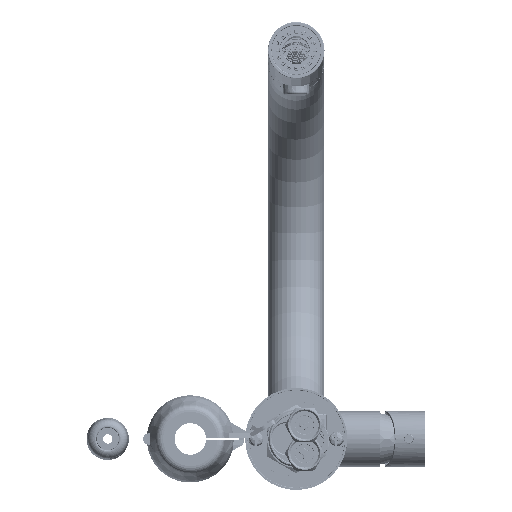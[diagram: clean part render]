
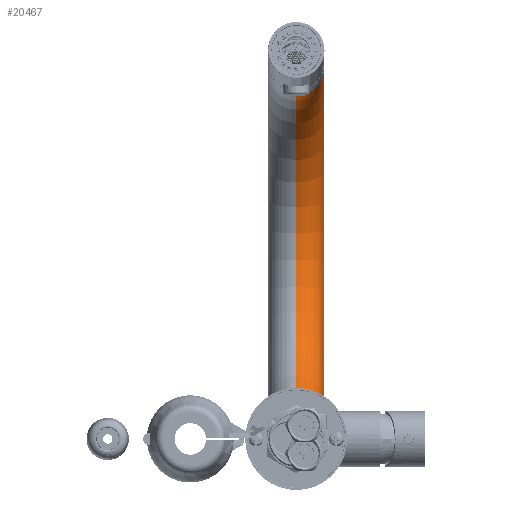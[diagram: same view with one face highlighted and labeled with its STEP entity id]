
A CAD part, front view. The second image highlights one B-rep face of the part: STEP entity #20467.
In plain terms, the highlighted toroidal (fillet/blend) face has major radius 100 mm and minor radius 15 mm.
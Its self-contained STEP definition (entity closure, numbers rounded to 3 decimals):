
#19729=CARTESIAN_POINT('',(0.,0.,118.));
#19730=DIRECTION('',(0.,0.,-1.));
#19731=DIRECTION('',(0.,1.,0.));
#19732=AXIS2_PLACEMENT_3D('',#19729,#19730,#19731);
#19734=CARTESIAN_POINT('',(0.,-100.,118.));
#19735=DIRECTION('',(1.,0.,0.));
#19736=DIRECTION('',(0.,1.,0.));
#19737=AXIS2_PLACEMENT_3D('',#19734,#19735,#19736);
#19739=CARTESIAN_POINT('',(0.,-199.619,126.716));
#19740=DIRECTION('',(0.,-0.087,-0.996));
#19741=DIRECTION('',(0.,0.996,-0.087));
#19742=AXIS2_PLACEMENT_3D('',#19739,#19740,#19741);
#19749=CARTESIAN_POINT('',(0.,-100.,118.));
#19750=DIRECTION('',(1.,0.,0.));
#19751=DIRECTION('',(0.,1.,0.));
#19752=AXIS2_PLACEMENT_3D('',#19749,#19750,#19751);
#20277=CARTESIAN_POINT('',(0.,-15.,118.));
#20278=VERTEX_POINT('',#20277);
#20279=CARTESIAN_POINT('',(0.,15.,118.));
#20280=VERTEX_POINT('',#20279);
#20281=CARTESIAN_POINT('',(0.,-184.677,125.408));
#20282=VERTEX_POINT('',#20281);
#20283=CARTESIAN_POINT('',(0.,-214.562,
128.023));
#20284=VERTEX_POINT('',#20283);
#20453=CARTESIAN_POINT('',(0.,-100.,118.));
#20454=DIRECTION('',(1.,0.,0.));
#20455=DIRECTION('',(0.,-1.,0.));
#20456=AXIS2_PLACEMENT_3D('',#20453,#20454,#20455);
#20457=TOROIDAL_SURFACE('',#20456,100.,15.);
#20458=ORIENTED_EDGE('',*,*,#20448,.T.);
#20460=ORIENTED_EDGE('',*,*,#20459,.T.);
#20462=ORIENTED_EDGE('',*,*,#20461,.T.);
#20464=ORIENTED_EDGE('',*,*,#20463,.F.);
#20465=EDGE_LOOP('',(#20458,#20460,#20462,#20464));
#20466=FACE_OUTER_BOUND('',#20465,.F.);
#19733=CIRCLE('',#19732,15.);
#19738=CIRCLE('',#19737,85.);
#19743=CIRCLE('',#19742,15.);
#19753=CIRCLE('',#19752,115.);
#20448=EDGE_CURVE('',#20280,#20278,#19733,.T.);
#20459=EDGE_CURVE('',#20278,#20282,#19738,.T.);
#20461=EDGE_CURVE('',#20282,#20284,#19743,.T.);
#20463=EDGE_CURVE('',#20280,#20284,#19753,.T.);
#20467=ADVANCED_FACE('',(#20466),#20457,.T.);
